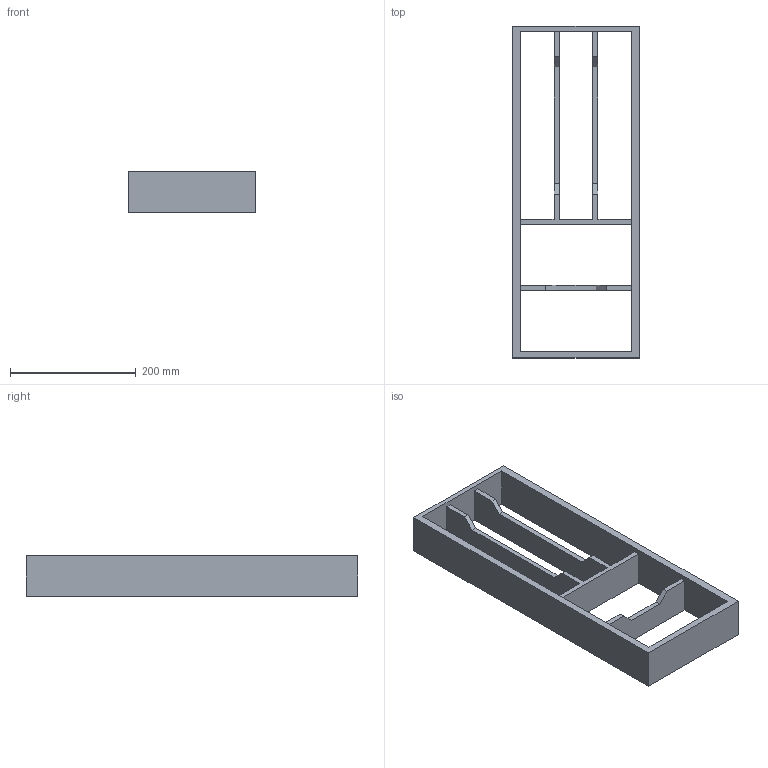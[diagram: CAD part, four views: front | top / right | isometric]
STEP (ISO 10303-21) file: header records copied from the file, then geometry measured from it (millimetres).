
FILE_DESCRIPTION (( 'STEP AP214' ), '1' );
FILE_NAME ('Vario Besteck fix NL550_B300_19mm_Buche.step', '2010-11-08T07:33:18', ( 'grass' ), ( '' ), 'SwSTEP 2.0', 'SolidWorks 2010', '' );
FILE_SCHEMA (( 'AUTOMOTIVE_DESIGN' ));
Length unit declared in the file: millimetre
Products named in the file (1): Vario Besteck fix NL550_B300_19mm_Buche
Bounding box: 202 x 529 x 65 mm (x, y, z)
Volume: 1414774 mm3; surface area: 321038 mm2
Topology: 1 solids, 1 shells, 34 faces, 108 edges, 72 vertices
Faces by surface type: plane 34
Entity records: 1226 total; most frequent: ORIENTED_EDGE 216, CARTESIAN_POINT 215, DIRECTION 178, VECTOR 108, LINE 108, EDGE_CURVE 108, VERTEX_POINT 72, EDGE_LOOP 40
